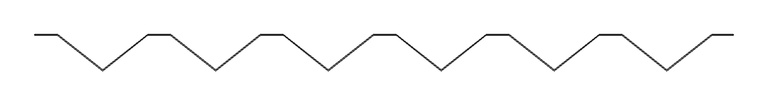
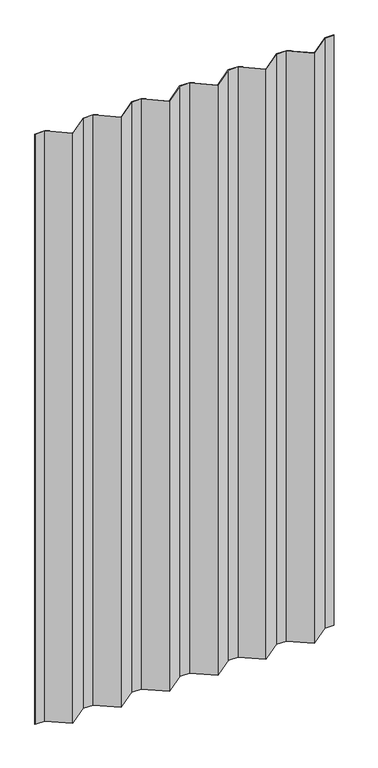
"""IFC4 building model written with IfcOpenShell, lengths in millimetres: plate geometry, HIANSA - H20.F09.008-CHAPA PERFILADA FACHADA VERTICAL - MT53MA6 - Panel de Muro Cortina : -."""

from ifc_helpers import new_model, si_unit, origin, origin_with_axes, place, context, project, spatial, polyline, outline, extrude, source, transform, mapped, element, save


def plate_e768e22a(model_context):
    return source(origin(), model_context, "Body", "SweptSolid", [
        extrude(outline(polyline([(478.0843077, 0.0), (509.0000002, 0.0), (509.0000002, -0.8), (478.3614358, -0.8), (412.3614358, -52.7615242), (346.3614358, -0.8), (313.3614358, -0.8), (247.3614358, -52.7615242), (181.3614358, -0.8), (148.3614358, -0.8), (82.3614358, -52.7615242), (16.3614358, -0.8), (-16.6385642, -0.8), (-82.6385642, -52.7615242), (-148.6385642, -0.8), (-181.6385642, -0.8), (-247.6385642, -52.7615242), (-313.6385642, -0.8), (-346.6385642, -0.8), (-412.6385642, -52.7615242), (-478.6385642, -0.8), (-511.6385642, -0.8), (-511.6385642, 0.0), (-478.3614361, 0.0), (-412.6385642, -51.7433424), (-346.9156923, 0.0), (-313.3614361, 0.0), (-247.6385642, -51.7433424), (-181.9156923, 0.0), (-148.3614361, 0.0), (-82.6385642, -51.7433424), (-16.9156923, 0.0), (16.6385639, 0.0), (82.3614358, -51.7433424), (148.0843077, 0.0), (181.6385639, 0.0), (247.3614358, -51.7433424), (313.0843077, 0.0), (346.6385639, 0.0), (412.3614358, -51.7433424), (478.0843077, 0.0)])), origin_with_axes(), (0.0, 0.0, 1.0), 2128.0),
    ])


if __name__ == "__main__":
    model = new_model("IFC4")
    model_context = context("Model", 3, world=origin())
    ifc_project = project(units=[si_unit("LENGTHUNIT", "METRE", prefix="MILLI")], contexts=[model_context])
    site = spatial("IfcSite", under=ifc_project)
    building = spatial("IfcBuilding", under=site)
    placement = place(None, origin())
    plate_shape = plate_e768e22a(model_context)
    element("IfcPlate", 1, ObjectType="HIANSA - H20.F09.008-CHAPA PERFILADA FACHADA VERTICAL - MT53MA6 - Panel de Muro Cortina : -", at=placement, inside=building, context=model_context, shape_type="MappedRepresentation", body=[
        mapped(plate_shape, transform((0.0, 0.0, 0.0), x_axis=(1.0, 0.0, 0.0), y_axis=(0.0, 1.0, 0.0), z_axis=(0.0, 0.0, 1.0))),
    ])
    save(model, "model.ifc")
